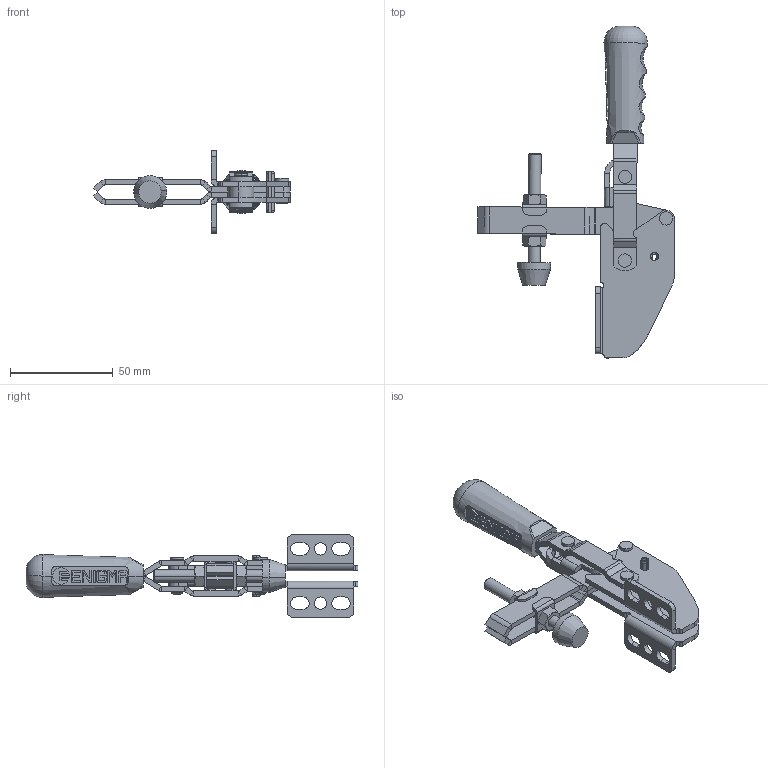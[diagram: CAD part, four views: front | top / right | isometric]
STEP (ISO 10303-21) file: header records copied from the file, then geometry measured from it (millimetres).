
FILE_DESCRIPTION (( 'STEP AP214' ), '1' );
FILE_NAME ('1102-A.STEP', '2022-05-31T12:41:51', ( '' ), ( '' ), 'SwSTEP 2.0', 'SolidWorks 2020', '' );
FILE_SCHEMA (( 'AUTOMOTIVE_DESIGN' ));
Length unit declared in the file: millimetre
Products named in the file (18): Aynalama1102 HAREKET KOLU_2022; 1102 A GÖVDE; M6_BASKI_GRUBU^1102_Y_MONTAJ_REV01; Aynalama1102 A GÖVDE; 7x4x10_BURÇ; Aynalama1102 BASKI KOLU_2022; 4x20_YARIKLI_P嵱; M6 Somun; M6 Aský; 4x17_PERﾇﾝN; 4x12_5_PERﾇﾝN; 1102 HAREKET KOLU_2022; M6 Baský; 1102 MAFSAL_2022; Ø12,5xØ7,5x5_YÜZÜK; 1102-A; 1102 BASKI KOLU_2022; C55_Yeni_Tutamak
Assembly tree (21 placements, depth 3):
  1102-A
    1102 BASKI KOLU_2022
    1102 HAREKET KOLU_2022
    1102 MAFSAL_2022
    4x12_5_PERﾇﾝN  x2
    4x17_PERﾇﾝN  x2
    7x4x10_BURÇ
    4x20_YARIKLI_P嵱
    Ø12,5xØ7,5x5_YÜZÜK
    M6_BASKI_GRUBU^1102_Y_MONTAJ_REV01
      M6 Aský  x2
      M6 Somun  x2
      M6 Baský
    Aynalama1102 HAREKET KOLU_2022
    Aynalama1102 BASKI KOLU_2022
    C55_Yeni_Tutamak
    1102 A GÖVDE
    Aynalama1102 A GÖVDE
Bounding box: 95.5 x 161.4 x 40.26 mm (x, y, z)
Volume: 44572.1 mm3; surface area: 37222.3 mm2
Topology: 20 solids, 20 shells, 926 faces, 2257 edges, 1400 vertices
Faces by surface type: plane 577, cylinder 265, cone 36, torus 34, bspline 14
Entity records: 24817 total; most frequent: CARTESIAN_POINT 5645, DIRECTION 3887, ORIENTED_EDGE 3750, EDGE_CURVE 1875, AXIS2_PLACEMENT_3D 1327, LINE 1233, VECTOR 1233, VERTEX_POINT 1164
